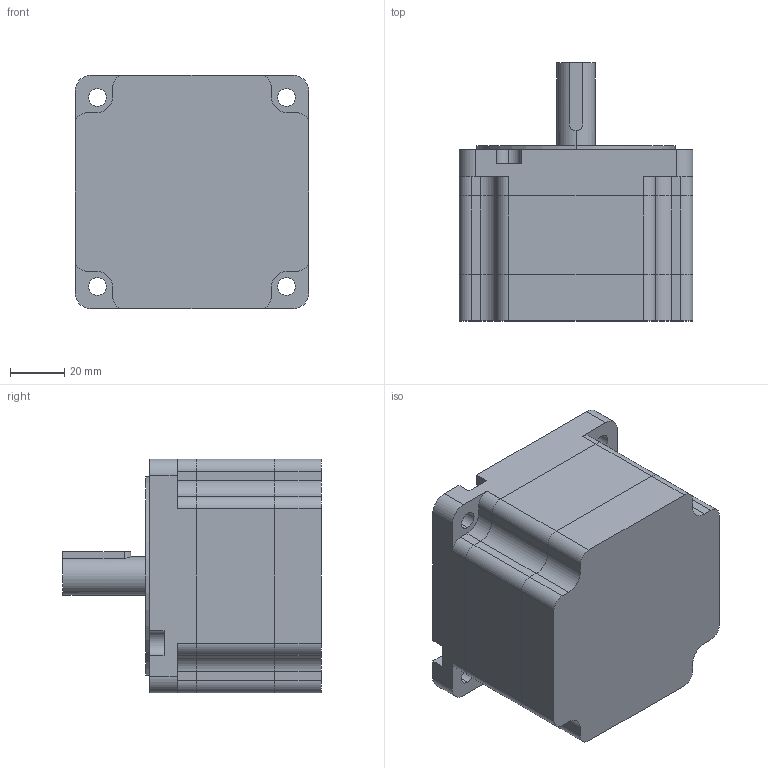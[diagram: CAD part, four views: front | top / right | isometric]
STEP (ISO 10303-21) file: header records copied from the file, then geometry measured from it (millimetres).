
FILE_DESCRIPTION (( 'STEP AP214' ), '1' );
FILE_NAME ('86HS64-K1432-007.STEP', '2020-07-19T00:38:26', ( 'wimxt.com' ), ( 'wimxt.com' ), 'SwSTEP 2.0', 'SolidWorks 2014', '' );
FILE_SCHEMA (( 'AUTOMOTIVE_DESIGN' ));
Length unit declared in the file: millimetre
Products named in the file (5): 5X5X25; 86A3S4傷裔; 86A3S4菁釱; 86A3隅赽; 86HS64-K1432-007
Assembly tree (4 placements, depth 2):
  86HS64-K1432-007
    86A3隅赽
    86A3S4菁釱
    86A3S4傷裔
    5X5X25
Bounding box: 86 x 95 x 86 mm (x, y, z)
Volume: 246585.4 mm3; surface area: 67828.3 mm2
Topology: 4 solids, 5 shells, 175 faces, 469 edges, 313 vertices
Faces by surface type: cylinder 96, plane 79
Entity records: 5819 total; most frequent: DIRECTION 1019, CARTESIAN_POINT 1002, ORIENTED_EDGE 938, EDGE_CURVE 469, AXIS2_PLACEMENT_3D 372, VERTEX_POINT 313, VECTOR 275, LINE 275
